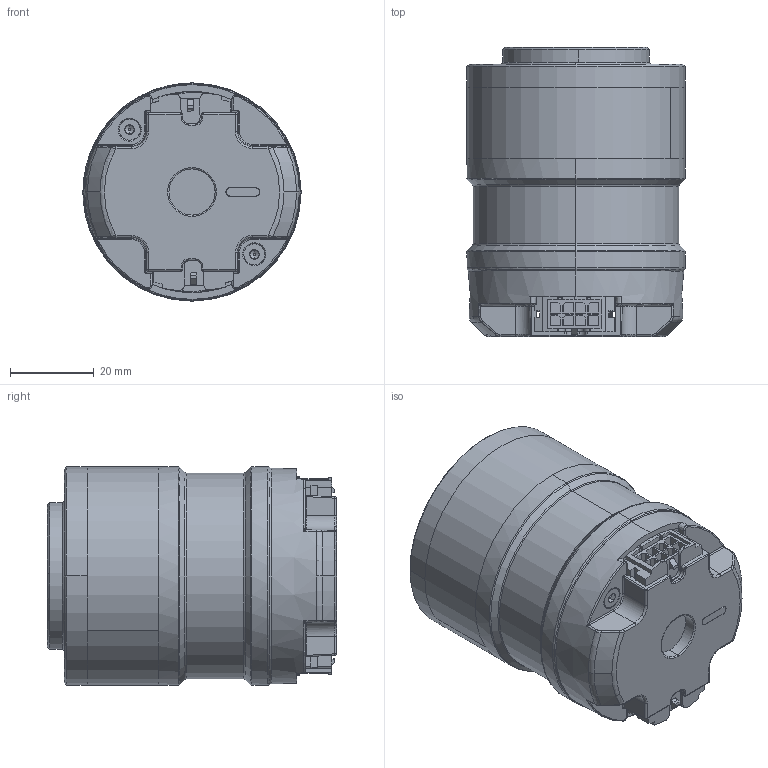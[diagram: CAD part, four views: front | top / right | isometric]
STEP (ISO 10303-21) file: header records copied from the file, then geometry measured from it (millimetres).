
FILE_DESCRIPTION (( 'STEP AP214' ), '1' );
FILE_NAME ('QDD-NE30-36_v2_3.STEP', '2019-09-23T09:41:27', ( 'Microsoft' ), ( 'Microsoft' ), 'SwSTEP 2.0', 'SolidWorks 2018', '' );
FILE_SCHEMA (( 'AUTOMOTIVE_DESIGN' ));
Length unit declared in the file: millimetre
Products named in the file (1): QDD-NE30-36_v2_3
Bounding box: 52 x 68.9 x 52 mm (x, y, z)
Volume: 115966.5 mm3; surface area: 48505.8 mm2
Topology: 21 solids, 30 shells, 1532 faces, 3825 edges, 2378 vertices
Faces by surface type: plane 952, cylinder 282, cone 126, bspline 95, torus 72, sphere 5
Entity records: 66257 total; most frequent: CARTESIAN_POINT 13943, ORIENTED_EDGE 7564, DIRECTION 6768, EDGE_CURVE 3782, VECTOR 2596, LINE 2596, VERTEX_POINT 2378, AXIS2_PLACEMENT_3D 2086
